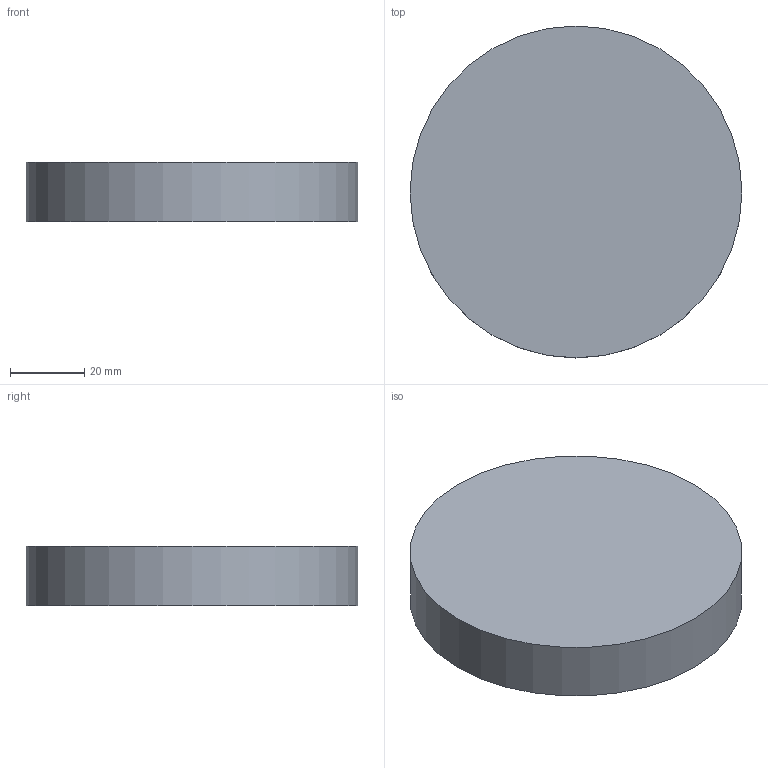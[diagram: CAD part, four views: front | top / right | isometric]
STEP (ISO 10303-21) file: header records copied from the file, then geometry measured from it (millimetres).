
FILE_DESCRIPTION(('Open CASCADE Model'),'2;1');
FILE_NAME('Open CASCADE Shape Model','2026-10-04T02:31:35',('Author'),( 'Open CASCADE'),'Open CASCADE STEP processor 8.0','Open CASCADE 8.0' ,'Unknown');
FILE_SCHEMA(('AUTOMOTIVE_DESIGN { 1 0 10303 214 1 1 1 1 }'));
Length unit declared in the file: millimetre
Products named in the file (1): Open CASCADE STEP translator 8.0 31
Bounding box: 89.4 x 89.4 x 16 mm (x, y, z)
Volume: 100435 mm3; surface area: 17048.1 mm2
Topology: 1 solids, 1 shells, 3 faces, 3 edges, 2 vertices
Faces by surface type: plane 2, cylinder 1
Full cylindrical faces by diameter (mm): 89.4 x1
Entity records: 108 total; most frequent: DIRECTION 19, CARTESIAN_POINT 15, AXIS2_PLACEMENT_3D 6, ORIENTED_EDGE 6, PCURVE 6, DEFINITIONAL_REPRESENTATION 6, LINE 5, VECTOR 5
